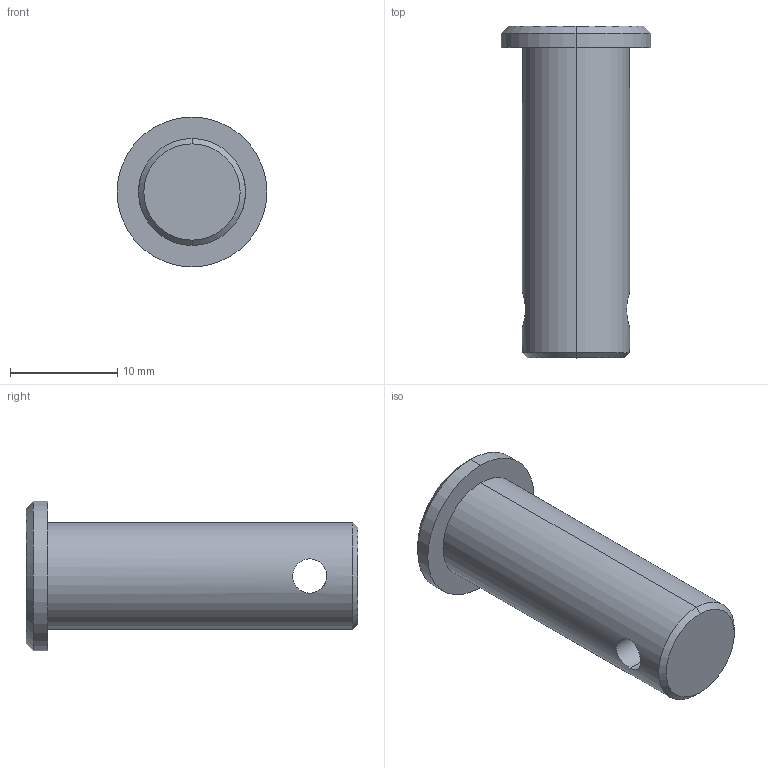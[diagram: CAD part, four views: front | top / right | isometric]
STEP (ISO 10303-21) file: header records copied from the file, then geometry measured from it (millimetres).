
FILE_DESCRIPTION (( 'STEP AP203' ), '1' );
FILE_NAME ('65660.W0110.step', '2023-10-06T09:58:54', ( '' ), ( '' ), 'SwSTEP 2.0', 'SolidWorks 2019', '' );
FILE_SCHEMA (( 'CONFIG_CONTROL_DESIGN' ));
Length unit declared in the file: millimetre
Products named in the file (1): 65660.W0110
Bounding box: 14 x 31 x 14 mm (x, y, z)
Volume: 2492.9 mm3; surface area: 1361.2 mm2
Topology: 1 solids, 1 shells, 13 faces, 26 edges, 16 vertices
Faces by surface type: cylinder 6, cone 4, plane 3
Entity records: 525 total; most frequent: CARTESIAN_POINT 168, DIRECTION 62, ORIENTED_EDGE 52, AXIS2_PLACEMENT_3D 26, EDGE_CURVE 26, VERTEX_POINT 16, EDGE_LOOP 16, ADVANCED_FACE 13
